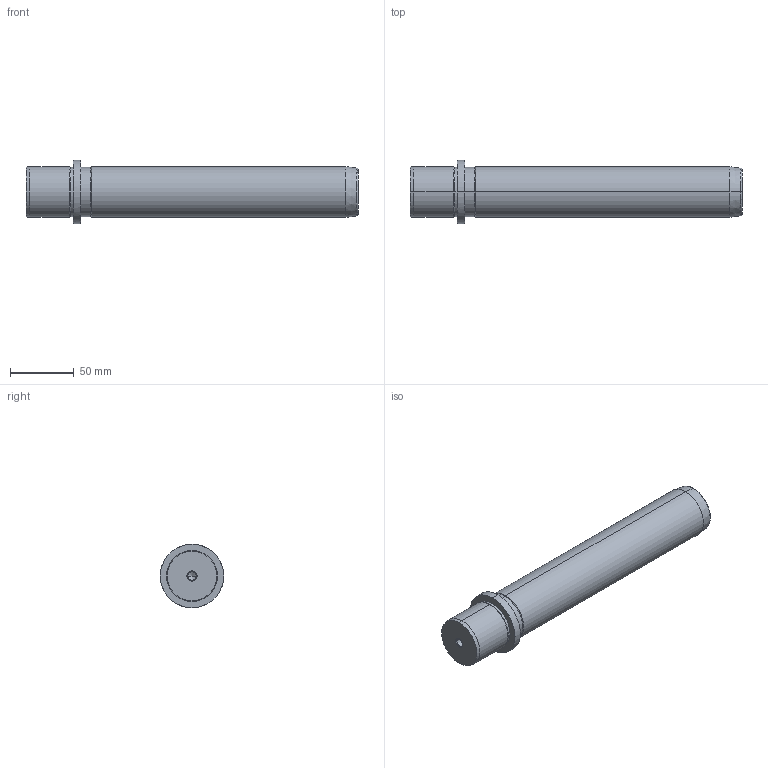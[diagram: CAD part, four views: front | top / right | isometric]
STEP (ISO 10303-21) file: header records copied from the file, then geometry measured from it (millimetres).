
FILE_DESCRIPTION(('CATIA V5 STEP Exchange'),'2;1');
FILE_NAME('C:\Users\Utente\Desktop\IO LAVORO\3D X SITO CF\X SITO\718\718-40x224.stp','2021-01-02T12:41:02+00:00',('none'),('none'),'CATIA Version 5 Release 20 GA (IN-10)','CATIA V5 STEP AP203','none');
FILE_SCHEMA(('CONFIG_CONTROL_DESIGN'));
Length unit declared in the file: millimetre
Products named in the file (1): 718-40x224
Bounding box: 261 x 50 x 50 mm (x, y, z)
Volume: 328964.1 mm3; surface area: 37764.5 mm2
Topology: 1 solids, 1 shells, 36 faces, 100 edges, 66 vertices
Faces by surface type: cone 16, cylinder 14, plane 4, torus 2
Entity records: 1291 total; most frequent: CARTESIAN_POINT 362, ORIENTED_EDGE 192, DIRECTION 157, EDGE_CURVE 96, AXIS2_PLACEMENT_3D 92, VERTEX_POINT 66, CIRCLE 55, EDGE_LOOP 40
